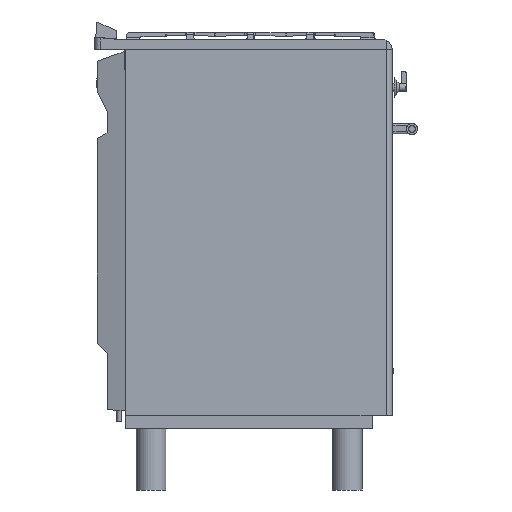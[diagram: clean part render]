
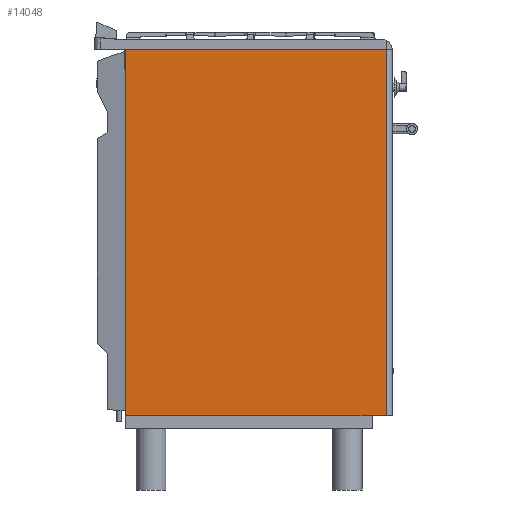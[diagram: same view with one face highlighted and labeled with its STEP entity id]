
A CAD part, front view. The second image highlights one B-rep face of the part: STEP entity #14048.
In plain terms, the highlighted planar face has unit normal (0, -1, 0).
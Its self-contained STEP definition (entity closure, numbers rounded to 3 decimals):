
#1046=LINE('',#22725,#2137);
#1047=LINE('',#22727,#2138);
#1048=LINE('',#22729,#2139);
#1049=LINE('',#22731,#2140);
#2137=VECTOR('',#18043,1000.);
#2138=VECTOR('',#18046,1000.);
#2139=VECTOR('',#18047,1000.);
#2140=VECTOR('',#18048,1000.);
#3090=PLANE('',#15813);
#4382=ORIENTED_EDGE('',*,*,#8011,.F.);
#4383=ORIENTED_EDGE('',*,*,#8010,.F.);
#4384=ORIENTED_EDGE('',*,*,#8012,.T.);
#4385=ORIENTED_EDGE('',*,*,#8013,.T.);
#8010=EDGE_CURVE('',#9944,#9942,#1046,.T.);
#8011=EDGE_CURVE('',#9942,#9945,#1047,.T.);
#8012=EDGE_CURVE('',#9944,#9946,#1048,.T.);
#8013=EDGE_CURVE('',#9946,#9945,#1049,.T.);
#9942=VERTEX_POINT('',#22720);
#9944=VERTEX_POINT('',#22724);
#9945=VERTEX_POINT('',#22728);
#9946=VERTEX_POINT('',#22730);
#11732=EDGE_LOOP('',(#4382,#4383,#4384,#4385));
#12783=FACE_BOUND('',#11732,.T.);
#14048=ADVANCED_FACE('',(#12783),#3090,.T.);
#15813=AXIS2_PLACEMENT_3D('',#22726,#18044,#18045);
#18043=DIRECTION('',(0.,0.,1.));
#18044=DIRECTION('',(0.,-1.,0.));
#18045=DIRECTION('',(-1.,0.,0.));
#18046=DIRECTION('',(1.,0.,0.));
#18047=DIRECTION('',(1.,0.,0.));
#18048=DIRECTION('',(0.,0.,1.));
#22720=CARTESIAN_POINT('',(-499.211,482.014,550.39));
#22724=CARTESIAN_POINT('',(-499.211,482.014,-177.61));
#22725=CARTESIAN_POINT('',(-499.211,482.014,-177.61));
#22726=CARTESIAN_POINT('',(-499.211,482.014,-177.61));
#22727=CARTESIAN_POINT('',(-499.211,482.014,550.39));
#22728=CARTESIAN_POINT('',(19.789,482.014,550.39));
#22729=CARTESIAN_POINT('',(-499.211,482.014,-177.61));
#22730=CARTESIAN_POINT('',(19.789,482.014,-177.61));
#22731=CARTESIAN_POINT('',(19.789,482.014,-177.61));
